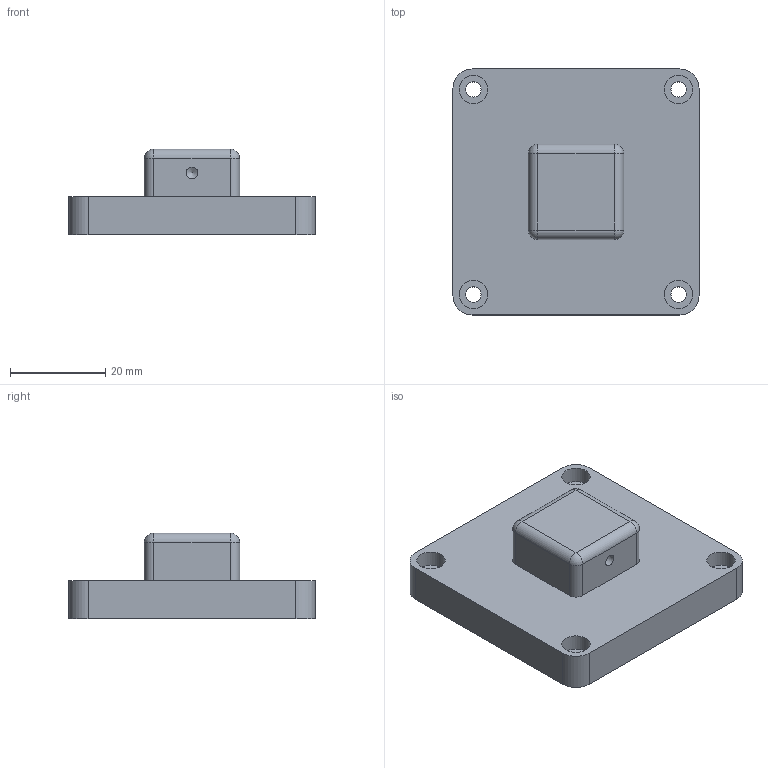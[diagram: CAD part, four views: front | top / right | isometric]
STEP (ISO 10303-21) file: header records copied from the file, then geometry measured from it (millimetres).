
FILE_DESCRIPTION(/* description */ ('Lid FlexChuck'),/* implementation_level */ '2;1');
FILE_NAME(/* name */ 'Z:\Werkstatt Server\Projekte\Atlas\Entwicklung u. Konstruktion\Konstruktion\CAD Daten\ITkPixToolV2.0\Flex Jig\ITPTv2.02.00.02.stp',/* time_stamp */ '2021-08-06T14:23:48+02:00',/* author */ ('Tim Kanngießer'),/* organization */ (''),/* preprocessor_version */ 'ST-DEVELOPER v18.1',/* originating_system */ 'Autodesk Inventor 2022',/* authorisation */ '');
FILE_SCHEMA (('AUTOMOTIVE_DESIGN { 1 0 10303 214 3 1 1 }'));
Length unit declared in the file: millimetre
Products named in the file (1): ITPTv2.02.00.02
Bounding box: 51.6 x 51.6 x 18 mm (x, y, z)
Volume: 23026.3 mm3; surface area: 8402.8 mm2
Topology: 1 solids, 1 shells, 45 faces, 98 edges, 61 vertices
Faces by surface type: cylinder 23, plane 16, sphere 4, cone 2
Full cylindrical faces by diameter (mm): 2.459 x2, 3.2 x4, 6 x4, 8 x1
Entity records: 1320 total; most frequent: CARTESIAN_POINT 238, DIRECTION 233, ORIENTED_EDGE 194, EDGE_CURVE 97, AXIS2_PLACEMENT_3D 92, EDGE_LOOP 62, VERTEX_POINT 61, LINE 49
